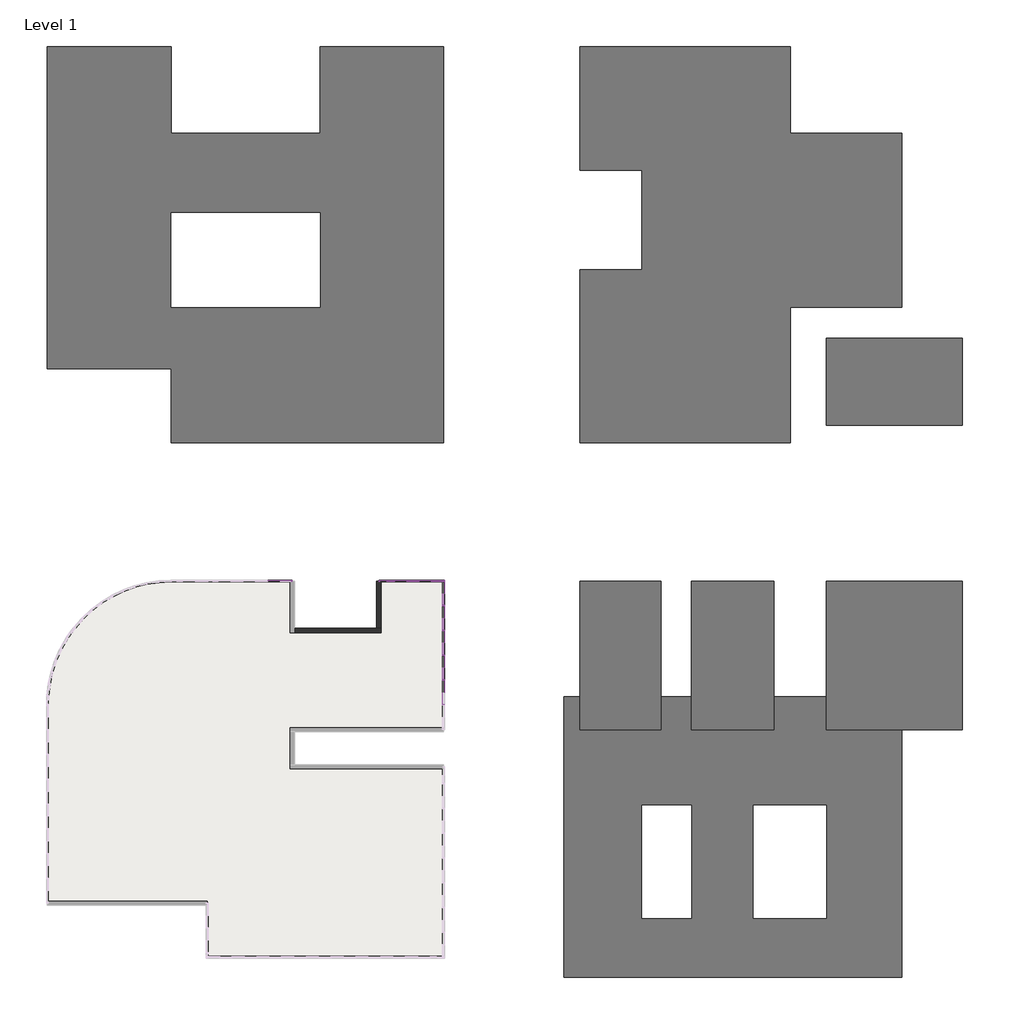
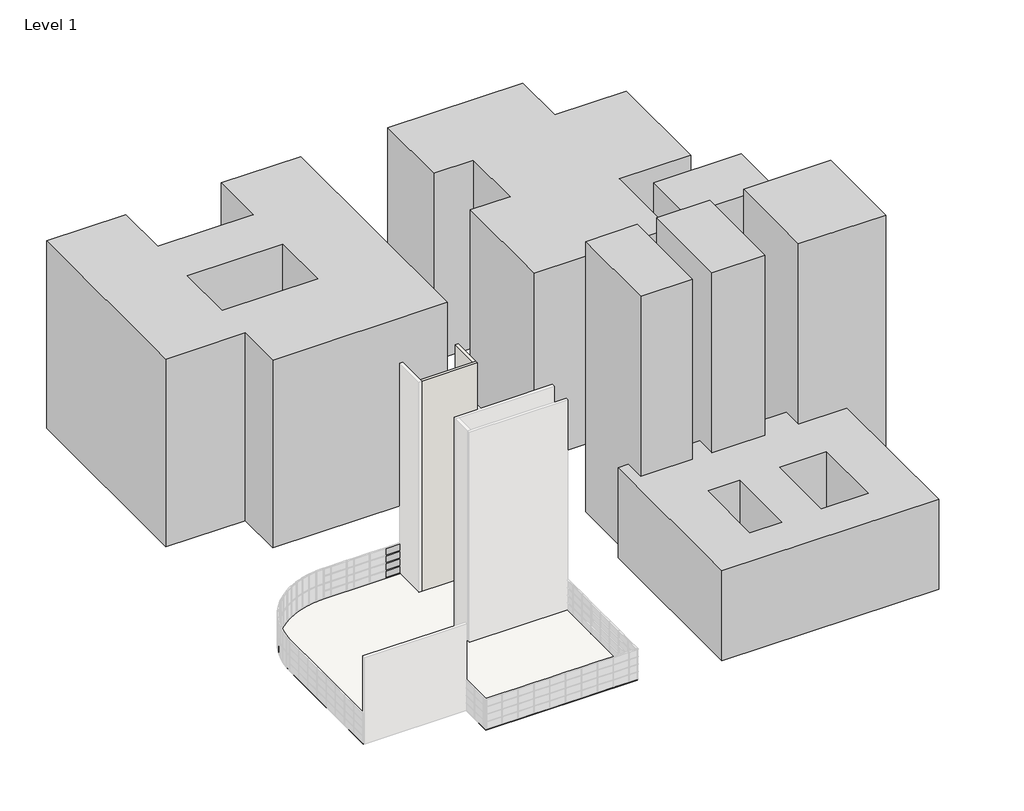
# One storey, part 6 of 6: 80 members, 32 plates, 3 proxies, 2 walls, 1 slab.
"""IFC4 building model written with IfcOpenShell, lengths in millimetres."""

from ifc_helpers import new_model, si_unit, point, frame, frame_2d, origin, origin_with_axes, place, context, project, spatial, polyline, circle_curve, trimmed, segment, composite_curve, outline, extrude, faceted_brep, transform, mapped, element, save
from components import rectangular_mullion_50_x_150mm_a053b0ca, rectangular_mullion_50_x_150mm_116cff39, rectangular_mullion_50_x_150mm_aa47fe12, rectangular_mullion_50_x_150mm_3a148f0f, rectangular_mullion_50_x_150mm_a91aaa2b, rectangular_mullion_50_x_150mm_12a430f9, rectangular_mullion_50_x_150mm_11a594ce, rectangular_mullion_50_x_150mm_ca70b892, rectangular_mullion_50_x_150mm_6b24f785, rectangular_mullion_50_x_150mm_98c2ab41, rectangular_mullion_50_x_150mm_947845bb, rectangular_mullion_50_x_150mm_614fafcd, system_panel_glazed_92d57a36, system_panel_glazed_751a585c, system_panel_glazed_28c32ad2, system_panel_glazed_08de6f5f, system_panel_glazed_c7e3270c, system_panel_glazed_892a108f

model = new_model("IFC4")

# Units and contexts
model_context = context("Model", 3, world=origin())
ifc_project = project(units=[si_unit("LENGTHUNIT", "METRE", prefix="MILLI")], contexts=[model_context])

# Site, building, storey
site = spatial("IfcSite", under=ifc_project)
building = spatial("IfcBuilding", under=site)
storey = spatial("IfcBuildingStorey", under=building, Name="Level 1", Elevation=0.0)

# Proxies
placement = place(None, origin())
element("IfcBuildingElementProxy", 1, Name="Building 1 : Building 1", ObjectType="Building 1 : Building 1", at=placement, inside=storey, context=model_context, shape_type="SweptSolid", body=[
    extrude(outline(polyline([(24503.2660975, 19519.7749227), (24503.2660975, 33519.7749227), (29503.2660975, 33519.7749227), (29503.2660975, 41519.7749227), (24503.2660975, 41519.7749227), (24503.2660975, 51519.7749227), (41503.2660975, 51519.7749227), (41503.2660975, 44519.7749227), (50503.2660975, 44519.7749227), (50503.2660975, 30457.4517739), (41503.2660975, 30457.4517739), (41503.2660975, 19519.7749227), (24503.2660975, 19519.7749227)])), origin_with_axes(), (0.0, 0.0, 1.0), 25000.0),
    extrude(outline(polyline([(44401.4778879, 20957.9625489), (44401.4778879, 27957.9625489), (55401.4778879, 27957.9625489), (55401.4778879, 20957.9625489), (44401.4778879, 20957.9625489)])), origin_with_axes(), (0.0, 0.0, 1.0), 25000.0),
])
element("IfcBuildingElementProxy", 2, Name="Building 2 : Building 2", ObjectType="Building 2 : Building 2", at=placement, inside=storey, context=model_context, shape_type="SweptSolid", body=[
    extrude(outline(polyline([(31028.3078366, 8375.9839566), (31028.3078366, -3624.0160434), (24503.2660975, -3624.0160434), (24503.2660975, 8375.9839566), (31028.3078366, 8375.9839566)])), origin_with_axes(), (0.0, 0.0, 1.0), 36000.0),
    extrude(outline(polyline([(40154.0002696, 8375.9839566), (40154.0002696, -3624.0160434), (33503.2660975, -3624.0160434), (33503.2660975, 8375.9839566), (40154.0002696, 8375.9839566)])), origin_with_axes(), (0.0, 0.0, 1.0), 36000.0),
    extrude(outline(polyline([(44401.4778879, -3624.0160434), (44401.4778879, 8375.9839566), (55401.4778879, 8375.9839566), (55401.4778879, -3624.0160434), (44401.4778879, -3624.0160434)])), origin_with_axes(), (0.0, 0.0, 1.0), 36000.0),
    extrude(outline(polyline([(24503.2660975, -967.486669), (24503.2660975, -3624.0160434), (31028.3078366, -3624.0160434), (31028.3078366, -967.486669), (33503.2660975, -967.486669), (33503.2660975, -3624.0160434), (40154.0002696, -3624.0160434), (40154.0002696, -967.486669), (44401.4778879, -967.486669), (44401.4778879, -3624.0160434), (50503.2660975, -3624.0160434), (50503.2660975, -23624.0160434), (23208.2992989, -23624.0160434), (23208.2992989, -967.486669), (24503.2660975, -967.486669)]), holes=[polyline([(29503.2660975, -9707.9757481), (29503.2660975, -18836.9310085), (33503.2660975, -18836.9310085), (33503.2660975, -9707.9757481), (29503.2660975, -9707.9757481)]), polyline([(38503.2660975, -9707.9757481), (38503.2660975, -18836.9310085), (44401.4778879, -18836.9310085), (44401.4778879, -9707.9757481), (38503.2660975, -9707.9757481)])]), origin_with_axes(), (0.0, 0.0, 1.0), 12000.0),
])
element("IfcBuildingElementProxy", 3, Name="Building 4 : Building 4", ObjectType="Building 4 : Building 4", at=placement, inside=storey, context=model_context, shape_type="SweptSolid", body=[
    extrude(outline(polyline([(-18496.7339025, 25519.7749227), (-18496.7339025, 51519.7749227), (-8496.7339025, 51519.7749227), (-8496.7339025, 44519.7749227), (3503.2660975, 44519.7749227), (3503.2660975, 51519.7749227), (13503.2660975, 51519.7749227), (13503.2660975, 19519.7749227), (-8496.7339025, 19519.7749227), (-8496.7339025, 25519.7749227), (-18496.7339025, 25519.7749227)]), holes=[polyline([(-8496.7339025, 38101.0367875), (-8496.7339025, 30457.4517739), (3503.2660975, 30457.4517739), (3503.2660975, 38101.0367875), (-8496.7339025, 38101.0367875)])]), origin_with_axes(), (0.0, 0.0, 1.0), 25000.0),
])

# Members
rectangular_mullion_50_x_150mm_shape = rectangular_mullion_50_x_150mm_a053b0ca(model_context)
element("IfcMember", 4, ObjectType="Rectangular Mullion : 50 x 150mm", at=placement, inside=storey, context=model_context, shape_type="MappedRepresentation", body=[
    mapped(rectangular_mullion_50_x_150mm_shape, transform((11503.2660975, 8375.9839566, 1025.0), x_axis=(-1.0, 0.0, 0.0), y_axis=(0.0, 1.0, 0.0), z_axis=(0.0, 0.0, -0.9999999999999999))),
])
element("IfcMember", 5, ObjectType="Rectangular Mullion : 50 x 150mm", at=placement, inside=storey, context=model_context, shape_type="MappedRepresentation", body=[
    mapped(rectangular_mullion_50_x_150mm_shape, transform((11503.2660975, 8375.9839566, 2025.0), x_axis=(-1.0, 0.0, 0.0), y_axis=(0.0, 1.0, 0.0), z_axis=(0.0, 0.0, -0.9999999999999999))),
])
element("IfcMember", 6, ObjectType="Rectangular Mullion : 50 x 150mm", at=placement, inside=storey, context=model_context, shape_type="MappedRepresentation", body=[
    mapped(rectangular_mullion_50_x_150mm_shape, transform((11503.2660975, 8375.9839566, 3025.0), x_axis=(-1.0, 0.0, 0.0), y_axis=(0.0, 1.0, 0.0), z_axis=(0.0, 0.0, -1.0))),
])
element("IfcMember", 7, ObjectType="Rectangular Mullion : 50 x 150mm", at=placement, inside=storey, context=model_context, shape_type="MappedRepresentation", body=[
    mapped(rectangular_mullion_50_x_150mm_shape, transform((9503.2660975, 8375.9839566, 1025.0), x_axis=(-1.0, 0.0, 0.0), y_axis=(0.0, 1.0, 0.0), z_axis=(0.0, 0.0, -0.9999999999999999))),
])
element("IfcMember", 8, ObjectType="Rectangular Mullion : 50 x 150mm", at=placement, inside=storey, context=model_context, shape_type="MappedRepresentation", body=[
    mapped(rectangular_mullion_50_x_150mm_shape, transform((9503.2660975, 8375.9839566, 2025.0), x_axis=(-1.0, 0.0, 0.0), y_axis=(0.0, 1.0, 0.0), z_axis=(0.0, 0.0, -0.9999999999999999))),
])
element("IfcMember", 9, ObjectType="Rectangular Mullion : 50 x 150mm", at=placement, inside=storey, context=model_context, shape_type="MappedRepresentation", body=[
    mapped(rectangular_mullion_50_x_150mm_shape, transform((9503.2660975, 8375.9839566, 3025.0), x_axis=(-1.0, 0.0, 0.0), y_axis=(0.0, 1.0, 0.0), z_axis=(0.0, 0.0, -1.0))),
])
element("IfcMember", 10, ObjectType="Rectangular Mullion : 50 x 150mm", at=placement, inside=storey, context=model_context, shape_type="MappedRepresentation", body=[
    mapped(rectangular_mullion_50_x_150mm_shape, transform((13503.2660975, 375.9839566, 1025.0), x_axis=(0.0, 1.0, 0.0), y_axis=(1.0, 0.0, 0.0), z_axis=(0.0, 0.0, -0.9999999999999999))),
])
element("IfcMember", 11, ObjectType="Rectangular Mullion : 50 x 150mm", at=placement, inside=storey, context=model_context, shape_type="MappedRepresentation", body=[
    mapped(rectangular_mullion_50_x_150mm_shape, transform((13503.2660975, 375.9839566, 2025.0), x_axis=(0.0, 1.0, 0.0), y_axis=(1.0, 0.0, 0.0), z_axis=(0.0, 0.0, -0.9999999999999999))),
])
element("IfcMember", 12, ObjectType="Rectangular Mullion : 50 x 150mm", at=placement, inside=storey, context=model_context, shape_type="MappedRepresentation", body=[
    mapped(rectangular_mullion_50_x_150mm_shape, transform((13503.2660975, 375.9839566, 3025.0), x_axis=(0.0, 1.0, 0.0), y_axis=(1.0, 0.0, 0.0), z_axis=(0.0, 0.0, -1.0))),
])
element("IfcMember", 13, ObjectType="Rectangular Mullion : 50 x 150mm", at=placement, inside=storey, context=model_context, shape_type="MappedRepresentation", body=[
    mapped(rectangular_mullion_50_x_150mm_shape, transform((13503.2660975, 2375.9839566, 1025.0), x_axis=(0.0, 1.0, 0.0), y_axis=(1.0, 0.0, 0.0), z_axis=(0.0, 0.0, -0.9999999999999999))),
])
element("IfcMember", 14, ObjectType="Rectangular Mullion : 50 x 150mm", at=placement, inside=storey, context=model_context, shape_type="MappedRepresentation", body=[
    mapped(rectangular_mullion_50_x_150mm_shape, transform((13503.2660975, 2375.9839566, 2025.0), x_axis=(0.0, 1.0, 0.0), y_axis=(1.0, 0.0, 0.0), z_axis=(0.0, 0.0, -0.9999999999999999))),
])
element("IfcMember", 15, ObjectType="Rectangular Mullion : 50 x 150mm", at=placement, inside=storey, context=model_context, shape_type="MappedRepresentation", body=[
    mapped(rectangular_mullion_50_x_150mm_shape, transform((13503.2660975, 2375.9839566, 3025.0), x_axis=(0.0, 1.0, 0.0), y_axis=(1.0, 0.0, 0.0), z_axis=(0.0, 0.0, -1.0))),
])
element("IfcMember", 16, ObjectType="Rectangular Mullion : 50 x 150mm", at=placement, inside=storey, context=model_context, shape_type="MappedRepresentation", body=[
    mapped(rectangular_mullion_50_x_150mm_shape, transform((13503.2660975, 4375.9839566, 1025.0), x_axis=(0.0, 1.0, 0.0), y_axis=(1.0, 0.0, 0.0), z_axis=(0.0, 0.0, -0.9999999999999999))),
])
element("IfcMember", 17, ObjectType="Rectangular Mullion : 50 x 150mm", at=placement, inside=storey, context=model_context, shape_type="MappedRepresentation", body=[
    mapped(rectangular_mullion_50_x_150mm_shape, transform((13503.2660975, 4375.9839566, 2025.0), x_axis=(0.0, 1.0, 0.0), y_axis=(1.0, 0.0, 0.0), z_axis=(0.0, 0.0, -0.9999999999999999))),
])
element("IfcMember", 18, ObjectType="Rectangular Mullion : 50 x 150mm", at=placement, inside=storey, context=model_context, shape_type="MappedRepresentation", body=[
    mapped(rectangular_mullion_50_x_150mm_shape, transform((13503.2660975, 4375.9839566, 3025.0), x_axis=(0.0, 1.0, 0.0), y_axis=(1.0, 0.0, 0.0), z_axis=(0.0, 0.0, -1.0))),
])
element("IfcMember", 19, ObjectType="Rectangular Mullion : 50 x 150mm", at=placement, inside=storey, context=model_context, shape_type="MappedRepresentation", body=[
    mapped(rectangular_mullion_50_x_150mm_shape, transform((13503.2660975, 6375.9839566, 1025.0), x_axis=(0.0, 1.0, 0.0), y_axis=(1.0, 0.0, 0.0), z_axis=(0.0, 0.0, -0.9999999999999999))),
])
element("IfcMember", 20, ObjectType="Rectangular Mullion : 50 x 150mm", at=placement, inside=storey, context=model_context, shape_type="MappedRepresentation", body=[
    mapped(rectangular_mullion_50_x_150mm_shape, transform((13503.2660975, 6375.9839566, 2025.0), x_axis=(0.0, 1.0, 0.0), y_axis=(1.0, 0.0, 0.0), z_axis=(0.0, 0.0, -0.9999999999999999))),
])
element("IfcMember", 21, ObjectType="Rectangular Mullion : 50 x 150mm", at=placement, inside=storey, context=model_context, shape_type="MappedRepresentation", body=[
    mapped(rectangular_mullion_50_x_150mm_shape, transform((13503.2660975, 6375.9839566, 3025.0), x_axis=(0.0, 1.0, 0.0), y_axis=(1.0, 0.0, 0.0), z_axis=(0.0, 0.0, -1.0))),
])
rectangular_mullion_50_x_150mm_2_shape = rectangular_mullion_50_x_150mm_116cff39(model_context)
element("IfcMember", 22, ObjectType="Rectangular Mullion : 50 x 150mm", at=placement, inside=storey, context=model_context, shape_type="MappedRepresentation", body=[
    mapped(rectangular_mullion_50_x_150mm_2_shape, transform((11503.2660975, 8375.9839566, 50.0), x_axis=(-1.0, 0.0, 0.0), y_axis=(0.0, 1.0, 0.0), z_axis=(0.0, 0.0, -1.0))),
])
element("IfcMember", 23, ObjectType="Rectangular Mullion : 50 x 150mm", at=placement, inside=storey, context=model_context, shape_type="MappedRepresentation", body=[
    mapped(rectangular_mullion_50_x_150mm_2_shape, transform((9503.2660975, 8375.9839566, 50.0), x_axis=(-1.0, 0.0, 0.0), y_axis=(0.0, 1.0, 0.0), z_axis=(0.0, 0.0, -1.0))),
])
element("IfcMember", 24, ObjectType="Rectangular Mullion : 50 x 150mm", at=placement, inside=storey, context=model_context, shape_type="MappedRepresentation", body=[
    mapped(rectangular_mullion_50_x_150mm_2_shape, transform((13503.2660975, 375.9839566, 50.0), x_axis=(0.0, 1.0, 0.0), y_axis=(1.0, 0.0, 0.0), z_axis=(0.0, 0.0, -1.0))),
])
element("IfcMember", 25, ObjectType="Rectangular Mullion : 50 x 150mm", at=placement, inside=storey, context=model_context, shape_type="MappedRepresentation", body=[
    mapped(rectangular_mullion_50_x_150mm_2_shape, transform((13503.2660975, 2375.9839566, 50.0), x_axis=(0.0, 1.0, 0.0), y_axis=(1.0, 0.0, 0.0), z_axis=(0.0, 0.0, -1.0))),
])
element("IfcMember", 26, ObjectType="Rectangular Mullion : 50 x 150mm", at=placement, inside=storey, context=model_context, shape_type="MappedRepresentation", body=[
    mapped(rectangular_mullion_50_x_150mm_2_shape, transform((13503.2660975, 4375.9839566, 50.0), x_axis=(0.0, 1.0, 0.0), y_axis=(1.0, 0.0, 0.0), z_axis=(0.0, 0.0, -1.0))),
])
element("IfcMember", 27, ObjectType="Rectangular Mullion : 50 x 150mm", at=placement, inside=storey, context=model_context, shape_type="MappedRepresentation", body=[
    mapped(rectangular_mullion_50_x_150mm_2_shape, transform((13503.2660975, 6375.9839566, 50.0), x_axis=(0.0, 1.0, 0.0), y_axis=(1.0, 0.0, 0.0), z_axis=(0.0, 0.0, -1.0))),
])
rectangular_mullion_50_x_150mm_3_shape = rectangular_mullion_50_x_150mm_aa47fe12(model_context)
element("IfcMember", 28, ObjectType="Rectangular Mullion : 50 x 150mm", at=placement, inside=storey, context=model_context, shape_type="MappedRepresentation", body=[
    mapped(rectangular_mullion_50_x_150mm_3_shape, transform((11503.2660975, 8375.9839566, 0.0), x_axis=(0.0, 0.0, -1.0), y_axis=(0.0, 1.0, 0.0), z_axis=(1.0, 0.0, 0.0))),
])
element("IfcMember", 29, ObjectType="Rectangular Mullion : 50 x 150mm", at=placement, inside=storey, context=model_context, shape_type="MappedRepresentation", body=[
    mapped(rectangular_mullion_50_x_150mm_3_shape, transform((13503.2660975, 375.9839566, 0.0), x_axis=(0.0, 0.0, -1.0), y_axis=(1.0, 0.0, 0.0), z_axis=(0.0, -1.0, 0.0))),
])
element("IfcMember", 30, ObjectType="Rectangular Mullion : 50 x 150mm", at=placement, inside=storey, context=model_context, shape_type="MappedRepresentation", body=[
    mapped(rectangular_mullion_50_x_150mm_3_shape, transform((13503.2660975, 2375.9839566, 0.0), x_axis=(0.0, 0.0, -1.0), y_axis=(1.0, 0.0, 0.0), z_axis=(0.0, -1.0, 0.0))),
])
element("IfcMember", 31, ObjectType="Rectangular Mullion : 50 x 150mm", at=placement, inside=storey, context=model_context, shape_type="MappedRepresentation", body=[
    mapped(rectangular_mullion_50_x_150mm_3_shape, transform((13503.2660975, 4375.9839566, 0.0), x_axis=(0.0, 0.0, -1.0), y_axis=(1.0, 0.0, 0.0), z_axis=(0.0, -1.0, 0.0))),
])
rectangular_mullion_50_x_150mm_4_shape = rectangular_mullion_50_x_150mm_3a148f0f(model_context)
element("IfcMember", 32, ObjectType="Rectangular Mullion : 50 x 150mm", at=placement, inside=storey, context=model_context, shape_type="MappedRepresentation", body=[
    mapped(rectangular_mullion_50_x_150mm_4_shape, transform((9503.2660975, 8375.9839566, 1000.0), x_axis=(0.0, 0.0, 1.0), y_axis=(0.0, 1.0, 0.0), z_axis=(-1.0, 0.0, 0.0))),
])
element("IfcMember", 33, ObjectType="Rectangular Mullion : 50 x 150mm", at=placement, inside=storey, context=model_context, shape_type="MappedRepresentation", body=[
    mapped(rectangular_mullion_50_x_150mm_4_shape, transform((9503.2660975, 8375.9839566, 2000.0), x_axis=(0.0, 0.0, 1.0), y_axis=(0.0, 1.0, 0.0), z_axis=(-1.0, 0.0, 0.0))),
])
element("IfcMember", 34, ObjectType="Rectangular Mullion : 50 x 150mm", at=placement, inside=storey, context=model_context, shape_type="MappedRepresentation", body=[
    mapped(rectangular_mullion_50_x_150mm_4_shape, transform((9503.2660975, 8375.9839566, 3000.0), x_axis=(0.0, 0.0, 1.0), y_axis=(0.0, 1.0, 0.0), z_axis=(-1.0, 0.0, 0.0))),
])
element("IfcMember", 35, ObjectType="Rectangular Mullion : 50 x 150mm", at=placement, inside=storey, context=model_context, shape_type="MappedRepresentation", body=[
    mapped(rectangular_mullion_50_x_150mm_4_shape, transform((9503.2660975, 8375.9839566, 4000.0), x_axis=(0.0, 0.0, 1.0), y_axis=(0.0, 1.0, 0.0), z_axis=(-1.0, 0.0, 0.0))),
])
element("IfcMember", 36, ObjectType="Rectangular Mullion : 50 x 150mm", at=placement, inside=storey, context=model_context, shape_type="MappedRepresentation", body=[
    mapped(rectangular_mullion_50_x_150mm_4_shape, transform((13503.2660975, 375.9839566, 1000.0), x_axis=(0.0, 0.0, 1.0), y_axis=(1.0, 0.0, 0.0), z_axis=(0.0, 0.9999999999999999, 0.0))),
])
element("IfcMember", 37, ObjectType="Rectangular Mullion : 50 x 150mm", at=placement, inside=storey, context=model_context, shape_type="MappedRepresentation", body=[
    mapped(rectangular_mullion_50_x_150mm_4_shape, transform((13503.2660975, 2375.9839566, 1000.0), x_axis=(0.0, 0.0, 1.0), y_axis=(1.0, 0.0, 0.0), z_axis=(0.0, 1.0, 0.0))),
])
element("IfcMember", 38, ObjectType="Rectangular Mullion : 50 x 150mm", at=placement, inside=storey, context=model_context, shape_type="MappedRepresentation", body=[
    mapped(rectangular_mullion_50_x_150mm_4_shape, transform((13503.2660975, 4375.9839566, 1000.0), x_axis=(0.0, 0.0, 1.0), y_axis=(1.0, 0.0, 0.0), z_axis=(0.0, 1.0, 0.0))),
])
element("IfcMember", 39, ObjectType="Rectangular Mullion : 50 x 150mm", at=placement, inside=storey, context=model_context, shape_type="MappedRepresentation", body=[
    mapped(rectangular_mullion_50_x_150mm_4_shape, transform((13503.2660975, 6375.9839566, 1000.0), x_axis=(0.0, 0.0, 1.0), y_axis=(1.0, 0.0, 0.0), z_axis=(0.0, 1.0, 0.0))),
])
element("IfcMember", 40, ObjectType="Rectangular Mullion : 50 x 150mm", at=placement, inside=storey, context=model_context, shape_type="MappedRepresentation", body=[
    mapped(rectangular_mullion_50_x_150mm_4_shape, transform((13503.2660975, 375.9839566, 2000.0), x_axis=(0.0, 0.0, 1.0), y_axis=(1.0, 0.0, 0.0), z_axis=(0.0, 0.9999999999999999, 0.0))),
])
element("IfcMember", 41, ObjectType="Rectangular Mullion : 50 x 150mm", at=placement, inside=storey, context=model_context, shape_type="MappedRepresentation", body=[
    mapped(rectangular_mullion_50_x_150mm_4_shape, transform((13503.2660975, 2375.9839566, 2000.0), x_axis=(0.0, 0.0, 1.0), y_axis=(1.0, 0.0, 0.0), z_axis=(0.0, 1.0, 0.0))),
])
element("IfcMember", 42, ObjectType="Rectangular Mullion : 50 x 150mm", at=placement, inside=storey, context=model_context, shape_type="MappedRepresentation", body=[
    mapped(rectangular_mullion_50_x_150mm_4_shape, transform((13503.2660975, 4375.9839566, 2000.0), x_axis=(0.0, 0.0, 1.0), y_axis=(1.0, 0.0, 0.0), z_axis=(0.0, 1.0, 0.0))),
])
element("IfcMember", 43, ObjectType="Rectangular Mullion : 50 x 150mm", at=placement, inside=storey, context=model_context, shape_type="MappedRepresentation", body=[
    mapped(rectangular_mullion_50_x_150mm_4_shape, transform((13503.2660975, 6375.9839566, 2000.0), x_axis=(0.0, 0.0, 1.0), y_axis=(1.0, 0.0, 0.0), z_axis=(0.0, 1.0, 0.0))),
])
element("IfcMember", 44, ObjectType="Rectangular Mullion : 50 x 150mm", at=placement, inside=storey, context=model_context, shape_type="MappedRepresentation", body=[
    mapped(rectangular_mullion_50_x_150mm_4_shape, transform((13503.2660975, 375.9839566, 3000.0), x_axis=(0.0, 0.0, 1.0), y_axis=(1.0, 0.0, 0.0), z_axis=(0.0, 0.9999999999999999, 0.0))),
])
element("IfcMember", 45, ObjectType="Rectangular Mullion : 50 x 150mm", at=placement, inside=storey, context=model_context, shape_type="MappedRepresentation", body=[
    mapped(rectangular_mullion_50_x_150mm_4_shape, transform((13503.2660975, 2375.9839566, 3000.0), x_axis=(0.0, 0.0, 1.0), y_axis=(1.0, 0.0, 0.0), z_axis=(0.0, 1.0, 0.0))),
])
element("IfcMember", 46, ObjectType="Rectangular Mullion : 50 x 150mm", at=placement, inside=storey, context=model_context, shape_type="MappedRepresentation", body=[
    mapped(rectangular_mullion_50_x_150mm_4_shape, transform((13503.2660975, 4375.9839566, 3000.0), x_axis=(0.0, 0.0, 1.0), y_axis=(1.0, 0.0, 0.0), z_axis=(0.0, 1.0, 0.0))),
])
element("IfcMember", 47, ObjectType="Rectangular Mullion : 50 x 150mm", at=placement, inside=storey, context=model_context, shape_type="MappedRepresentation", body=[
    mapped(rectangular_mullion_50_x_150mm_4_shape, transform((13503.2660975, 6375.9839566, 3000.0), x_axis=(0.0, 0.0, 1.0), y_axis=(1.0, 0.0, 0.0), z_axis=(0.0, 1.0, 0.0))),
])
element("IfcMember", 48, ObjectType="Rectangular Mullion : 50 x 150mm", at=placement, inside=storey, context=model_context, shape_type="MappedRepresentation", body=[
    mapped(rectangular_mullion_50_x_150mm_4_shape, transform((13503.2660975, 375.9839566, 4000.0), x_axis=(0.0, 0.0, 1.0), y_axis=(1.0, 0.0, 0.0), z_axis=(0.0, 0.9999999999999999, 0.0))),
])
element("IfcMember", 49, ObjectType="Rectangular Mullion : 50 x 150mm", at=placement, inside=storey, context=model_context, shape_type="MappedRepresentation", body=[
    mapped(rectangular_mullion_50_x_150mm_4_shape, transform((13503.2660975, 2375.9839566, 4000.0), x_axis=(0.0, 0.0, 1.0), y_axis=(1.0, 0.0, 0.0), z_axis=(0.0, 1.0, 0.0))),
])
element("IfcMember", 50, ObjectType="Rectangular Mullion : 50 x 150mm", at=placement, inside=storey, context=model_context, shape_type="MappedRepresentation", body=[
    mapped(rectangular_mullion_50_x_150mm_4_shape, transform((13503.2660975, 4375.9839566, 4000.0), x_axis=(0.0, 0.0, 1.0), y_axis=(1.0, 0.0, 0.0), z_axis=(0.0, 1.0, 0.0))),
])
element("IfcMember", 51, ObjectType="Rectangular Mullion : 50 x 150mm", at=placement, inside=storey, context=model_context, shape_type="MappedRepresentation", body=[
    mapped(rectangular_mullion_50_x_150mm_4_shape, transform((13503.2660975, 6375.9839566, 4000.0), x_axis=(0.0, 0.0, 1.0), y_axis=(1.0, 0.0, 0.0), z_axis=(0.0, 1.0, 0.0))),
])
element("IfcMember", 52, ObjectType="Rectangular Mullion : 50 x 150mm", at=placement, inside=storey, context=model_context, shape_type="MappedRepresentation", body=[
    mapped(rectangular_mullion_50_x_150mm_3_shape, transform((1278.419219, 8375.9839566, 0.0), x_axis=(0.0, 0.0, -1.0), y_axis=(0.0, 1.0, 0.0), z_axis=(1.0, 0.0, 0.0))),
])
rectangular_mullion_50_x_150mm_5_shape = rectangular_mullion_50_x_150mm_a91aaa2b(model_context)
element("IfcMember", 53, ObjectType="Rectangular Mullion : 50 x 150mm", at=placement, inside=storey, context=model_context, shape_type="MappedRepresentation", body=[
    mapped(rectangular_mullion_50_x_150mm_5_shape, transform((1278.419219, 8375.9839566, 975.0), x_axis=(1.0, 0.0, 0.0), y_axis=(0.0, 1.0, 0.0), z_axis=(0.0, 0.0, 1.0))),
])
element("IfcMember", 54, ObjectType="Rectangular Mullion : 50 x 150mm", at=placement, inside=storey, context=model_context, shape_type="MappedRepresentation", body=[
    mapped(rectangular_mullion_50_x_150mm_5_shape, transform((13503.2660975, 8375.9839566, 975.0), x_axis=(1.0, 0.0, 0.0), y_axis=(0.0, 1.0, 0.0), z_axis=(0.0, 0.0, 1.0))),
])
rectangular_mullion_50_x_150mm_6_shape = rectangular_mullion_50_x_150mm_12a430f9(model_context)
element("IfcMember", 55, ObjectType="Rectangular Mullion : 50 x 150mm", at=placement, inside=storey, context=model_context, shape_type="MappedRepresentation", body=[
    mapped(rectangular_mullion_50_x_150mm_6_shape, transform((1278.419219, 8375.9839566, 1975.0), x_axis=(1.0, 0.0, 0.0), y_axis=(0.0, 1.0, 0.0), z_axis=(0.0, 0.0, 0.9999999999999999))),
])
element("IfcMember", 56, ObjectType="Rectangular Mullion : 50 x 150mm", at=placement, inside=storey, context=model_context, shape_type="MappedRepresentation", body=[
    mapped(rectangular_mullion_50_x_150mm_6_shape, transform((1278.419219, 8375.9839566, 2975.0), x_axis=(1.0, 0.0, 0.0), y_axis=(0.0, 1.0, 0.0), z_axis=(0.0, 0.0, 0.9999999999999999))),
])
element("IfcMember", 57, ObjectType="Rectangular Mullion : 50 x 150mm", at=placement, inside=storey, context=model_context, shape_type="MappedRepresentation", body=[
    mapped(rectangular_mullion_50_x_150mm_6_shape, transform((1278.419219, 8375.9839566, 3975.0), x_axis=(1.0, 0.0, 0.0), y_axis=(0.0, 1.0, 0.0), z_axis=(0.0, 0.0, 1.0))),
])
element("IfcMember", 58, ObjectType="Rectangular Mullion : 50 x 150mm", at=placement, inside=storey, context=model_context, shape_type="MappedRepresentation", body=[
    mapped(rectangular_mullion_50_x_150mm_6_shape, transform((13503.2660975, 8375.9839566, 1975.0), x_axis=(1.0, 0.0, 0.0), y_axis=(0.0, 1.0, 0.0), z_axis=(0.0, 0.0, 0.9999999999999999))),
])
element("IfcMember", 59, ObjectType="Rectangular Mullion : 50 x 150mm", at=placement, inside=storey, context=model_context, shape_type="MappedRepresentation", body=[
    mapped(rectangular_mullion_50_x_150mm_6_shape, transform((13503.2660975, 8375.9839566, 2975.0), x_axis=(1.0, 0.0, 0.0), y_axis=(0.0, 1.0, 0.0), z_axis=(0.0, 0.0, 0.9999999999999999))),
])
element("IfcMember", 60, ObjectType="Rectangular Mullion : 50 x 150mm", at=placement, inside=storey, context=model_context, shape_type="MappedRepresentation", body=[
    mapped(rectangular_mullion_50_x_150mm_6_shape, transform((13503.2660975, 8375.9839566, 3975.0), x_axis=(1.0, 0.0, 0.0), y_axis=(0.0, 1.0, 0.0), z_axis=(0.0, 0.0, 1.0))),
])
element("IfcMember", 61, ObjectType="Rectangular Mullion : 50 x 150mm", at=placement, inside=storey, context=model_context, shape_type="MappedRepresentation", body=[
    mapped(rectangular_mullion_50_x_150mm_6_shape, transform((8278.419219, 8375.9839566, 1025.0), x_axis=(-1.0, 0.0, 0.0), y_axis=(0.0, 1.0, 0.0), z_axis=(0.0, 0.0, -0.9999999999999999))),
])
element("IfcMember", 62, ObjectType="Rectangular Mullion : 50 x 150mm", at=placement, inside=storey, context=model_context, shape_type="MappedRepresentation", body=[
    mapped(rectangular_mullion_50_x_150mm_6_shape, transform((8278.419219, 8375.9839566, 2025.0), x_axis=(-1.0, 0.0, 0.0), y_axis=(0.0, 1.0, 0.0), z_axis=(0.0, 0.0, -0.9999999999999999))),
])
element("IfcMember", 63, ObjectType="Rectangular Mullion : 50 x 150mm", at=placement, inside=storey, context=model_context, shape_type="MappedRepresentation", body=[
    mapped(rectangular_mullion_50_x_150mm_6_shape, transform((8278.419219, 8375.9839566, 3025.0), x_axis=(-1.0, 0.0, 0.0), y_axis=(0.0, 1.0, 0.0), z_axis=(0.0, 0.0, -1.0))),
])
element("IfcMember", 64, ObjectType="Rectangular Mullion : 50 x 150mm", at=placement, inside=storey, context=model_context, shape_type="MappedRepresentation", body=[
    mapped(rectangular_mullion_50_x_150mm_6_shape, transform((13503.2660975, 8375.9839566, 1025.0), x_axis=(0.0, 1.0, 0.0), y_axis=(1.0, 0.0, 0.0), z_axis=(0.0, 0.0, -0.9999999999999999))),
])
element("IfcMember", 65, ObjectType="Rectangular Mullion : 50 x 150mm", at=placement, inside=storey, context=model_context, shape_type="MappedRepresentation", body=[
    mapped(rectangular_mullion_50_x_150mm_6_shape, transform((13503.2660975, 8375.9839566, 2025.0), x_axis=(0.0, 1.0, 0.0), y_axis=(1.0, 0.0, 0.0), z_axis=(0.0, 0.0, -0.9999999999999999))),
])
element("IfcMember", 66, ObjectType="Rectangular Mullion : 50 x 150mm", at=placement, inside=storey, context=model_context, shape_type="MappedRepresentation", body=[
    mapped(rectangular_mullion_50_x_150mm_6_shape, transform((13503.2660975, 8375.9839566, 3025.0), x_axis=(0.0, 1.0, 0.0), y_axis=(1.0, 0.0, 0.0), z_axis=(0.0, 0.0, -1.0))),
])
element("IfcMember", 67, ObjectType="Rectangular Mullion : 50 x 150mm", at=placement, inside=storey, context=model_context, shape_type="MappedRepresentation", body=[
    mapped(rectangular_mullion_50_x_150mm_5_shape, transform((8278.419219, 8375.9839566, 50.0), x_axis=(-1.0, 0.0, 0.0), y_axis=(0.0, 1.0, 0.0), z_axis=(0.0, 0.0, -1.0))),
])
element("IfcMember", 68, ObjectType="Rectangular Mullion : 50 x 150mm", at=placement, inside=storey, context=model_context, shape_type="MappedRepresentation", body=[
    mapped(rectangular_mullion_50_x_150mm_5_shape, transform((13503.2660975, 8375.9839566, 50.0), x_axis=(0.0, 1.0, 0.0), y_axis=(1.0, 0.0, 0.0), z_axis=(0.0, 0.0, -1.0))),
])
rectangular_mullion_50_x_150mm_7_shape = rectangular_mullion_50_x_150mm_11a594ce(model_context)
element("IfcMember", 69, ObjectType="Rectangular Mullion : 50 x 150mm", at=placement, inside=storey, context=model_context, shape_type="MappedRepresentation", body=[
    mapped(rectangular_mullion_50_x_150mm_7_shape, transform((8278.419219, 8375.9839566, 1000.0), x_axis=(0.0, 0.0, 1.0), y_axis=(0.0, 1.0, 0.0), z_axis=(-1.0, 0.0, 0.0))),
])
element("IfcMember", 70, ObjectType="Rectangular Mullion : 50 x 150mm", at=placement, inside=storey, context=model_context, shape_type="MappedRepresentation", body=[
    mapped(rectangular_mullion_50_x_150mm_7_shape, transform((8278.419219, 8375.9839566, 2000.0), x_axis=(0.0, 0.0, 1.0), y_axis=(0.0, 1.0, 0.0), z_axis=(-1.0, 0.0, 0.0))),
])
element("IfcMember", 71, ObjectType="Rectangular Mullion : 50 x 150mm", at=placement, inside=storey, context=model_context, shape_type="MappedRepresentation", body=[
    mapped(rectangular_mullion_50_x_150mm_7_shape, transform((8278.419219, 8375.9839566, 3000.0), x_axis=(0.0, 0.0, 1.0), y_axis=(0.0, 1.0, 0.0), z_axis=(-1.0, 0.0, 0.0))),
])
element("IfcMember", 72, ObjectType="Rectangular Mullion : 50 x 150mm", at=placement, inside=storey, context=model_context, shape_type="MappedRepresentation", body=[
    mapped(rectangular_mullion_50_x_150mm_7_shape, transform((8278.419219, 8375.9839566, 4000.0), x_axis=(0.0, 0.0, 1.0), y_axis=(0.0, 1.0, 0.0), z_axis=(-1.0, 0.0, 0.0))),
])
rectangular_mullion_50_x_150mm_8_shape = rectangular_mullion_50_x_150mm_ca70b892(model_context)
element("IfcMember", 73, ObjectType="Rectangular Mullion : 50 x 150mm", at=placement, inside=storey, context=model_context, shape_type="MappedRepresentation", body=[
    mapped(rectangular_mullion_50_x_150mm_8_shape, transform((9503.2660975, 8375.9839566, 0.0), x_axis=(0.0, 0.0, -1.0), y_axis=(0.0, 1.0, 0.0), z_axis=(1.0, 0.0, 0.0))),
])
rectangular_mullion_50_x_150mm_9_shape = rectangular_mullion_50_x_150mm_6b24f785(model_context)
element("IfcMember", 74, ObjectType="Rectangular Mullion : 50 x 150mm", at=placement, inside=storey, context=model_context, shape_type="MappedRepresentation", body=[
    mapped(rectangular_mullion_50_x_150mm_9_shape, transform((13503.2660975, 8375.9839566, 1000.0), x_axis=(0.0, 0.0, 1.0), y_axis=(1.0, 0.0, 0.0), z_axis=(0.0, 0.9999999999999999, 0.0))),
])
element("IfcMember", 75, ObjectType="Rectangular Mullion : 50 x 150mm", at=placement, inside=storey, context=model_context, shape_type="MappedRepresentation", body=[
    mapped(rectangular_mullion_50_x_150mm_9_shape, transform((13503.2660975, 8375.9839566, 2000.0), x_axis=(0.0, 0.0, 1.0), y_axis=(1.0, 0.0, 0.0), z_axis=(0.0, 0.9999999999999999, 0.0))),
])
element("IfcMember", 76, ObjectType="Rectangular Mullion : 50 x 150mm", at=placement, inside=storey, context=model_context, shape_type="MappedRepresentation", body=[
    mapped(rectangular_mullion_50_x_150mm_9_shape, transform((13503.2660975, 8375.9839566, 3000.0), x_axis=(0.0, 0.0, 1.0), y_axis=(1.0, 0.0, 0.0), z_axis=(0.0, 0.9999999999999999, 0.0))),
])
element("IfcMember", 77, ObjectType="Rectangular Mullion : 50 x 150mm", at=placement, inside=storey, context=model_context, shape_type="MappedRepresentation", body=[
    mapped(rectangular_mullion_50_x_150mm_9_shape, transform((13503.2660975, 8375.9839566, 4000.0), x_axis=(0.0, 0.0, 1.0), y_axis=(1.0, 0.0, 0.0), z_axis=(0.0, 0.9999999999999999, 0.0))),
])
rectangular_mullion_50_x_150mm_10_shape = rectangular_mullion_50_x_150mm_98c2ab41(model_context)
element("IfcMember", 78, ObjectType="Rectangular Mullion : 50 x 150mm", at=placement, inside=storey, context=model_context, shape_type="MappedRepresentation", body=[
    mapped(rectangular_mullion_50_x_150mm_10_shape, transform((13503.2660975, 6375.9839566, 0.0), x_axis=(0.0, 0.0, -1.0), y_axis=(1.0, 0.0, 0.0), z_axis=(0.0, -0.9999999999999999, 0.0))),
])
rectangular_mullion_50_x_150mm_11_shape = rectangular_mullion_50_x_150mm_947845bb(model_context)
element("IfcMember", 79, ObjectType="Rectangular Mullion : 50 x 150mm", at=placement, inside=storey, context=model_context, shape_type="MappedRepresentation", body=[
    mapped(rectangular_mullion_50_x_150mm_11_shape, transform((11503.2660975, 8375.9839566, 1000.0), x_axis=(0.0, 0.0, 1.0), y_axis=(0.0, 1.0, 0.0), z_axis=(-1.0, 0.0, 0.0))),
])
element("IfcMember", 80, ObjectType="Rectangular Mullion : 50 x 150mm", at=placement, inside=storey, context=model_context, shape_type="MappedRepresentation", body=[
    mapped(rectangular_mullion_50_x_150mm_11_shape, transform((11503.2660975, 8375.9839566, 2000.0), x_axis=(0.0, 0.0, 1.0), y_axis=(0.0, 1.0, 0.0), z_axis=(-1.0, 0.0, 0.0))),
])
element("IfcMember", 81, ObjectType="Rectangular Mullion : 50 x 150mm", at=placement, inside=storey, context=model_context, shape_type="MappedRepresentation", body=[
    mapped(rectangular_mullion_50_x_150mm_11_shape, transform((11503.2660975, 8375.9839566, 3000.0), x_axis=(0.0, 0.0, 1.0), y_axis=(0.0, 1.0, 0.0), z_axis=(-1.0, 0.0, 0.0))),
])
element("IfcMember", 82, ObjectType="Rectangular Mullion : 50 x 150mm", at=placement, inside=storey, context=model_context, shape_type="MappedRepresentation", body=[
    mapped(rectangular_mullion_50_x_150mm_11_shape, transform((11503.2660975, 8375.9839566, 4000.0), x_axis=(0.0, 0.0, 1.0), y_axis=(0.0, 1.0, 0.0), z_axis=(-1.0, 0.0, 0.0))),
])
rectangular_mullion_50_x_150mm_12_shape = rectangular_mullion_50_x_150mm_614fafcd(model_context)
element("IfcMember", 83, ObjectType="Rectangular Mullion : 50 x 150mm", at=placement, inside=storey, context=model_context, shape_type="MappedRepresentation", body=[
    mapped(rectangular_mullion_50_x_150mm_12_shape, transform((13503.2660975, 8375.9839566, 0.0), x_axis=(0.0, 0.0, -1.0), y_axis=(0.0, 1.0, 0.0), z_axis=(1.0, 0.0, 0.0))),
])

# Plates
system_panel_glazed_shape = system_panel_glazed_92d57a36(model_context)
element("IfcPlate", 84, ObjectType="System Panel : Glazed", at=placement, inside=storey, context=model_context, shape_type="MappedRepresentation", body=[
    mapped(system_panel_glazed_shape, transform((13453.2660975, 8375.9839566, 512.5), x_axis=(0.0, 0.0, 1.0), y_axis=(0.0, 1.0, 0.0), z_axis=(-1.0, 0.0, 0.0))),
])
element("IfcPlate", 85, ObjectType="System Panel : Glazed", at=placement, inside=storey, context=model_context, shape_type="MappedRepresentation", body=[
    mapped(system_panel_glazed_shape, transform((1228.419219, 8375.9839566, 512.5), x_axis=(0.0, 0.0, 1.0), y_axis=(0.0, 1.0, 0.0), z_axis=(-1.0, 0.0, 0.0))),
])
element("IfcPlate", 86, ObjectType="System Panel : Glazed", at=placement, inside=storey, context=model_context, shape_type="MappedRepresentation", body=[
    mapped(system_panel_glazed_shape, transform((13503.2660975, 6400.9839566, 512.5), x_axis=(0.0, 0.0, 1.0), y_axis=(1.0, 0.0, 0.0), z_axis=(0.0, 1.0, 0.0))),
])
system_panel_glazed_2_shape = system_panel_glazed_751a585c(model_context)
element("IfcPlate", 87, ObjectType="System Panel : Glazed", at=placement, inside=storey, context=model_context, shape_type="MappedRepresentation", body=[
    mapped(system_panel_glazed_2_shape, transform((13503.2660975, 6400.9839566, 1500.0), x_axis=(0.0, 0.0, 1.0), y_axis=(1.0, 0.0, 0.0), z_axis=(0.0, 1.0, 0.0))),
])
element("IfcPlate", 88, ObjectType="System Panel : Glazed", at=placement, inside=storey, context=model_context, shape_type="MappedRepresentation", body=[
    mapped(system_panel_glazed_2_shape, transform((13503.2660975, 6400.9839566, 2500.0), x_axis=(0.0, 0.0, 1.0), y_axis=(1.0, 0.0, 0.0), z_axis=(0.0, 1.0, 0.0))),
])
element("IfcPlate", 89, ObjectType="System Panel : Glazed", at=placement, inside=storey, context=model_context, shape_type="MappedRepresentation", body=[
    mapped(system_panel_glazed_2_shape, transform((13503.2660975, 6400.9839566, 3500.0), x_axis=(0.0, 0.0, 1.0), y_axis=(1.0, 0.0, 0.0), z_axis=(0.0, 1.0, 0.0))),
])
element("IfcPlate", 90, ObjectType="System Panel : Glazed", at=placement, inside=storey, context=model_context, shape_type="MappedRepresentation", body=[
    mapped(system_panel_glazed_2_shape, transform((13453.2660975, 8375.9839566, 1500.0), x_axis=(0.0, 0.0, 1.0), y_axis=(0.0, 1.0, 0.0), z_axis=(-1.0, 0.0, 0.0))),
])
element("IfcPlate", 91, ObjectType="System Panel : Glazed", at=placement, inside=storey, context=model_context, shape_type="MappedRepresentation", body=[
    mapped(system_panel_glazed_2_shape, transform((13453.2660975, 8375.9839566, 2500.0), x_axis=(0.0, 0.0, 1.0), y_axis=(0.0, 1.0, 0.0), z_axis=(-1.0, 0.0, 0.0))),
])
element("IfcPlate", 92, ObjectType="System Panel : Glazed", at=placement, inside=storey, context=model_context, shape_type="MappedRepresentation", body=[
    mapped(system_panel_glazed_2_shape, transform((13453.2660975, 8375.9839566, 3500.0), x_axis=(0.0, 0.0, 1.0), y_axis=(0.0, 1.0, 0.0), z_axis=(-1.0, 0.0, 0.0))),
])
element("IfcPlate", 93, ObjectType="System Panel : Glazed", at=placement, inside=storey, context=model_context, shape_type="MappedRepresentation", body=[
    mapped(system_panel_glazed_2_shape, transform((1228.419219, 8375.9839566, 1500.0), x_axis=(0.0, 0.0, 1.0), y_axis=(0.0, 1.0, 0.0), z_axis=(-1.0, 0.0, 0.0))),
])
element("IfcPlate", 94, ObjectType="System Panel : Glazed", at=placement, inside=storey, context=model_context, shape_type="MappedRepresentation", body=[
    mapped(system_panel_glazed_2_shape, transform((1228.419219, 8375.9839566, 2500.0), x_axis=(0.0, 0.0, 1.0), y_axis=(0.0, 1.0, 0.0), z_axis=(-1.0, 0.0, 0.0))),
])
element("IfcPlate", 95, ObjectType="System Panel : Glazed", at=placement, inside=storey, context=model_context, shape_type="MappedRepresentation", body=[
    mapped(system_panel_glazed_2_shape, transform((1228.419219, 8375.9839566, 3500.0), x_axis=(0.0, 0.0, 1.0), y_axis=(0.0, 1.0, 0.0), z_axis=(-1.0, 0.0, 0.0))),
])
system_panel_glazed_3_shape = system_panel_glazed_28c32ad2(model_context)
element("IfcPlate", 96, ObjectType="System Panel : Glazed", at=placement, inside=storey, context=model_context, shape_type="MappedRepresentation", body=[
    mapped(system_panel_glazed_3_shape, transform((13503.2660975, 400.9839566, 512.5), x_axis=(0.0, 0.0, 1.0), y_axis=(1.0, 0.0, 0.0), z_axis=(0.0, 1.0, 0.0))),
])
element("IfcPlate", 97, ObjectType="System Panel : Glazed", at=placement, inside=storey, context=model_context, shape_type="MappedRepresentation", body=[
    mapped(system_panel_glazed_3_shape, transform((13503.2660975, 2400.9839566, 512.5), x_axis=(0.0, 0.0, 1.0), y_axis=(1.0, 0.0, 0.0), z_axis=(0.0, 1.0, 0.0))),
])
element("IfcPlate", 98, ObjectType="System Panel : Glazed", at=placement, inside=storey, context=model_context, shape_type="MappedRepresentation", body=[
    mapped(system_panel_glazed_3_shape, transform((13503.2660975, 4400.9839566, 512.5), x_axis=(0.0, 0.0, 1.0), y_axis=(1.0, 0.0, 0.0), z_axis=(0.0, 1.0, 0.0))),
])
element("IfcPlate", 99, ObjectType="System Panel : Glazed", at=placement, inside=storey, context=model_context, shape_type="MappedRepresentation", body=[
    mapped(system_panel_glazed_3_shape, transform((11478.2660975, 8375.9839566, 512.5), x_axis=(0.0, 0.0, 1.0), y_axis=(0.0, 1.0, 0.0), z_axis=(-1.0, 0.0, 0.0))),
])
system_panel_glazed_4_shape = system_panel_glazed_08de6f5f(model_context)
element("IfcPlate", 100, ObjectType="System Panel : Glazed", at=placement, inside=storey, context=model_context, shape_type="MappedRepresentation", body=[
    mapped(system_panel_glazed_4_shape, transform((13503.2660975, 400.9839566, 1500.0), x_axis=(0.0, 0.0, 1.0), y_axis=(1.0, 0.0, 0.0), z_axis=(0.0, 1.0, 0.0))),
])
element("IfcPlate", 101, ObjectType="System Panel : Glazed", at=placement, inside=storey, context=model_context, shape_type="MappedRepresentation", body=[
    mapped(system_panel_glazed_4_shape, transform((13503.2660975, 400.9839566, 2500.0), x_axis=(0.0, 0.0, 1.0), y_axis=(1.0, 0.0, 0.0), z_axis=(0.0, 1.0, 0.0))),
])
element("IfcPlate", 102, ObjectType="System Panel : Glazed", at=placement, inside=storey, context=model_context, shape_type="MappedRepresentation", body=[
    mapped(system_panel_glazed_4_shape, transform((13503.2660975, 400.9839566, 3500.0), x_axis=(0.0, 0.0, 1.0), y_axis=(1.0, 0.0, 0.0), z_axis=(0.0, 1.0, 0.0))),
])
element("IfcPlate", 103, ObjectType="System Panel : Glazed", at=placement, inside=storey, context=model_context, shape_type="MappedRepresentation", body=[
    mapped(system_panel_glazed_4_shape, transform((13503.2660975, 2400.9839566, 1500.0), x_axis=(0.0, 0.0, 1.0), y_axis=(1.0, 0.0, 0.0), z_axis=(0.0, 1.0, 0.0))),
])
element("IfcPlate", 104, ObjectType="System Panel : Glazed", at=placement, inside=storey, context=model_context, shape_type="MappedRepresentation", body=[
    mapped(system_panel_glazed_4_shape, transform((13503.2660975, 2400.9839566, 2500.0), x_axis=(0.0, 0.0, 1.0), y_axis=(1.0, 0.0, 0.0), z_axis=(0.0, 1.0, 0.0))),
])
element("IfcPlate", 105, ObjectType="System Panel : Glazed", at=placement, inside=storey, context=model_context, shape_type="MappedRepresentation", body=[
    mapped(system_panel_glazed_4_shape, transform((13503.2660975, 2400.9839566, 3500.0), x_axis=(0.0, 0.0, 1.0), y_axis=(1.0, 0.0, 0.0), z_axis=(0.0, 1.0, 0.0))),
])
element("IfcPlate", 106, ObjectType="System Panel : Glazed", at=placement, inside=storey, context=model_context, shape_type="MappedRepresentation", body=[
    mapped(system_panel_glazed_4_shape, transform((13503.2660975, 4400.9839566, 1500.0), x_axis=(0.0, 0.0, 1.0), y_axis=(1.0, 0.0, 0.0), z_axis=(0.0, 1.0, 0.0))),
])
element("IfcPlate", 107, ObjectType="System Panel : Glazed", at=placement, inside=storey, context=model_context, shape_type="MappedRepresentation", body=[
    mapped(system_panel_glazed_4_shape, transform((13503.2660975, 4400.9839566, 2500.0), x_axis=(0.0, 0.0, 1.0), y_axis=(1.0, 0.0, 0.0), z_axis=(0.0, 1.0, 0.0))),
])
element("IfcPlate", 108, ObjectType="System Panel : Glazed", at=placement, inside=storey, context=model_context, shape_type="MappedRepresentation", body=[
    mapped(system_panel_glazed_4_shape, transform((13503.2660975, 4400.9839566, 3500.0), x_axis=(0.0, 0.0, 1.0), y_axis=(1.0, 0.0, 0.0), z_axis=(0.0, 1.0, 0.0))),
])
element("IfcPlate", 109, ObjectType="System Panel : Glazed", at=placement, inside=storey, context=model_context, shape_type="MappedRepresentation", body=[
    mapped(system_panel_glazed_4_shape, transform((11478.2660975, 8375.9839566, 1500.0), x_axis=(0.0, 0.0, 1.0), y_axis=(0.0, 1.0, 0.0), z_axis=(-1.0, 0.0, 0.0))),
])
element("IfcPlate", 110, ObjectType="System Panel : Glazed", at=placement, inside=storey, context=model_context, shape_type="MappedRepresentation", body=[
    mapped(system_panel_glazed_4_shape, transform((11478.2660975, 8375.9839566, 2500.0), x_axis=(0.0, 0.0, 1.0), y_axis=(0.0, 1.0, 0.0), z_axis=(-1.0, 0.0, 0.0))),
])
element("IfcPlate", 111, ObjectType="System Panel : Glazed", at=placement, inside=storey, context=model_context, shape_type="MappedRepresentation", body=[
    mapped(system_panel_glazed_4_shape, transform((11478.2660975, 8375.9839566, 3500.0), x_axis=(0.0, 0.0, 1.0), y_axis=(0.0, 1.0, 0.0), z_axis=(-1.0, 0.0, 0.0))),
])
system_panel_glazed_5_shape = system_panel_glazed_c7e3270c(model_context)
element("IfcPlate", 112, ObjectType="System Panel : Glazed", at=placement, inside=storey, context=model_context, shape_type="MappedRepresentation", body=[
    mapped(system_panel_glazed_5_shape, transform((9478.2660975, 8375.9839566, 512.5), x_axis=(0.0, 0.0, 1.0), y_axis=(0.0, 1.0, 0.0), z_axis=(-1.0, 0.0, 0.0))),
])
system_panel_glazed_6_shape = system_panel_glazed_892a108f(model_context)
element("IfcPlate", 113, ObjectType="System Panel : Glazed", at=placement, inside=storey, context=model_context, shape_type="MappedRepresentation", body=[
    mapped(system_panel_glazed_6_shape, transform((9478.2660975, 8375.9839566, 1500.0), x_axis=(0.0, 0.0, 1.0), y_axis=(0.0, 1.0, 0.0), z_axis=(-1.0, 0.0, 0.0))),
])
element("IfcPlate", 114, ObjectType="System Panel : Glazed", at=placement, inside=storey, context=model_context, shape_type="MappedRepresentation", body=[
    mapped(system_panel_glazed_6_shape, transform((9478.2660975, 8375.9839566, 2500.0), x_axis=(0.0, 0.0, 1.0), y_axis=(0.0, 1.0, 0.0), z_axis=(-1.0, 0.0, 0.0))),
])
element("IfcPlate", 115, ObjectType="System Panel : Glazed", at=placement, inside=storey, context=model_context, shape_type="MappedRepresentation", body=[
    mapped(system_panel_glazed_6_shape, transform((9478.2660975, 8375.9839566, 3500.0), x_axis=(0.0, 0.0, 1.0), y_axis=(0.0, 1.0, 0.0), z_axis=(-1.0, 0.0, 0.0))),
])

# Slab
element("IfcSlab", 116, ObjectType="Generic 150mm", at=placement, inside=storey, context=model_context, shape_type="SweptSolid", body=[
    extrude(outline(composite_curve([segment(trimmed(circle_curve(frame_2d((-8496.7339025, -1624.0160434)), 10000.0), [point((-18496.7339025, -1624.0160434))], [point((-8496.7339025, 8375.9839566))], False, "CARTESIAN"), True, "CONTINUOUS"), segment(polyline([(-8496.7339025, 8375.9839566), (-5587.173406, 8375.9839566), (1278.419219, 8375.9839566), (1278.419219, 4375.9839566), (8278.419219, 4375.9839566), (8278.419219, 8375.9839566), (13503.2660975, 8375.9839566), (13503.2660975, -3624.0160434), (1278.419219, -3624.0160434), (1278.419219, -6624.0160434), (13503.2660975, -6624.0160434), (13503.2660975, -21988.7417365), (-5587.173406, -21988.7417365), (-5587.173406, -17621.30803), (-18496.7339025, -17621.30803), (-18496.7339025, -1624.0160434)]), True, "CONTINUOUS")], self_intersect=False)), frame((0.0, 0.0, -150.0), z_axis=(0.0, 0.0, 1.0), x_axis=(1.0, 0.0, 0.0)), (0.0, 0.0, 1.0), 150.0),
])

# Walls
element("IfcWall", 117, ObjectType="Exterior - Brick on Mtl. Stud", at=placement, inside=storey, context=model_context, shape_type="Brep", body=[
    faceted_brep([(8443.419219, 4560.9839566, 0.0), (8093.419219, 4560.9839566, 0.0), (1463.419219, 4560.9839566, 0.0), (1463.419219, 4560.9839566, 28000.0), (8093.419219, 4560.9839566, 28000.0), (8443.419219, 4560.9839566, 28000.0), (8443.419219, 4210.9839566, 0.0), (8443.419219, 4210.9839566, 28000.0), (1463.419219, 4210.9839566, 28000.0), (1463.419219, 4210.9839566, 0.0)], [[[0, 1, 2, 3, 4, 5]], [[6, 7, 8, 9]], [[2, 1, 0, 6, 9]], [[5, 4, 3, 8, 7]], [[0, 5, 7, 6]], [[3, 2, 9, 8]]]),
])
element("IfcWall", 118, ObjectType="Exterior - Brick on Mtl. Stud", at=placement, inside=storey, context=model_context, shape_type="SweptSolid", body=[
    extrude(outline(polyline([(8093.419219, 4560.9839566), (8093.419219, 8375.9839566), (8443.419219, 8375.9839566), (8443.419219, 4560.9839566), (8093.419219, 4560.9839566)])), origin_with_axes(), (0.0, 0.0, 1.0), 28000.0),
])

save(model, "model.ifc")
